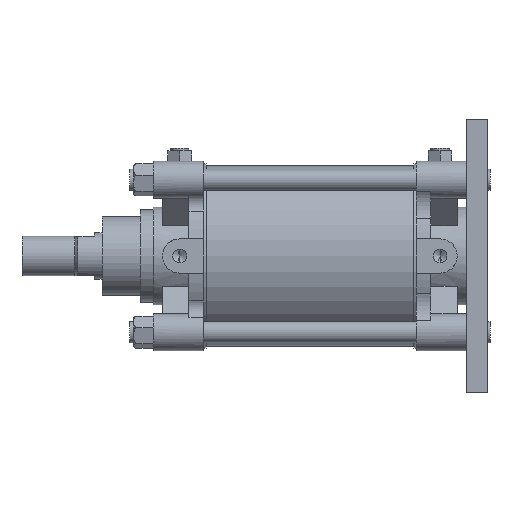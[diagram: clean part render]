
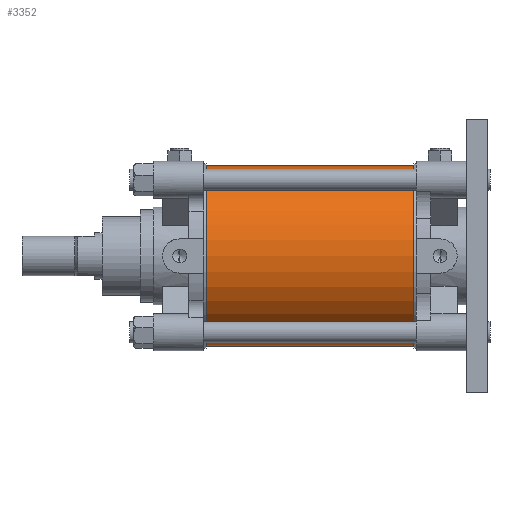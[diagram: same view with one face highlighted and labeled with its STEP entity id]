
A CAD part, front view. The second image highlights one B-rep face of the part: STEP entity #3352.
In plain terms, the highlighted cylindrical face has radius 68.5 mm (diameter 137 mm), a partial arc.
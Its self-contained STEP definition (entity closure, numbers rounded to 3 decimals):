
#100 = ORIENTED_EDGE ( 'NONE', *, *, #10176, .T. ) ;
#215 = DIRECTION ( 'NONE',  ( -1., 0., 0. ) ) ;
#283 = CARTESIAN_POINT ( 'NONE',  ( 79., 0., -68.5 ) ) ;
#845 = EDGE_CURVE ( 'NONE', #8014, #8733, #8389, .T. ) ;
#1365 = AXIS2_PLACEMENT_3D ( 'NONE', #1787, #7340, #9031 ) ;
#1706 = EDGE_LOOP ( 'NONE', ( #2172, #7622, #4409, #100 ) ) ;
#1787 = CARTESIAN_POINT ( 'NONE',  ( 79., 0., 0. ) ) ;
#1792 = VECTOR ( 'NONE', #2388, 1000. ) ;
#1885 = CARTESIAN_POINT ( 'NONE',  ( 79., 0., 0. ) ) ;
#2102 = LINE ( 'NONE', #283, #2419 ) ;
#2172 = ORIENTED_EDGE ( 'NONE', *, *, #5193, .F. ) ;
#2219 = FACE_OUTER_BOUND ( 'NONE', #1706, .T. ) ;
#2388 = DIRECTION ( 'NONE',  ( -1., 0., 0. ) ) ;
#2419 = VECTOR ( 'NONE', #4176, 1000. ) ;
#3352 = ADVANCED_FACE ( 'NONE', ( #2219 ), #9805, .T. ) ;
#3735 = CARTESIAN_POINT ( 'NONE',  ( -79., 0., -68.5 ) ) ;
#3767 = CARTESIAN_POINT ( 'NONE',  ( 79., 0., 68.5 ) ) ;
#4176 = DIRECTION ( 'NONE',  ( -1., 0., 0. ) ) ;
#4395 = AXIS2_PLACEMENT_3D ( 'NONE', #1885, #215, #7576 ) ;
#4409 = ORIENTED_EDGE ( 'NONE', *, *, #9285, .T. ) ;
#4432 = DIRECTION ( 'NONE',  ( 1., 0., 0. ) ) ;
#4455 = LINE ( 'NONE', #3767, #1792 ) ;
#4616 = VERTEX_POINT ( 'NONE', #3735 ) ;
#5193 = EDGE_CURVE ( 'NONE', #8733, #4616, #2102, .T. ) ;
#5279 = AXIS2_PLACEMENT_3D ( 'NONE', #8937, #4432, #10292 ) ;
#7285 = CARTESIAN_POINT ( 'NONE',  ( 79., 0., 68.5 ) ) ;
#7340 = DIRECTION ( 'NONE',  ( 1., 0., 0. ) ) ;
#7576 = DIRECTION ( 'NONE',  ( 0., 0., 1. ) ) ;
#7622 = ORIENTED_EDGE ( 'NONE', *, *, #845, .F. ) ;
#7862 = VERTEX_POINT ( 'NONE', #9318 ) ;
#7983 = CIRCLE ( 'NONE', #5279, 68.5 ) ;
#8014 = VERTEX_POINT ( 'NONE', #7285 ) ;
#8389 = CIRCLE ( 'NONE', #1365, 68.5 ) ;
#8733 = VERTEX_POINT ( 'NONE', #9238 ) ;
#8937 = CARTESIAN_POINT ( 'NONE',  ( -79., 0., 0. ) ) ;
#9031 = DIRECTION ( 'NONE',  ( 0., 0., -1. ) ) ;
#9238 = CARTESIAN_POINT ( 'NONE',  ( 79., 0., -68.5 ) ) ;
#9285 = EDGE_CURVE ( 'NONE', #8014, #7862, #4455, .T. ) ;
#9318 = CARTESIAN_POINT ( 'NONE',  ( -79., 0., 68.5 ) ) ;
#9805 = CYLINDRICAL_SURFACE ( 'NONE', #4395, 68.5 ) ;
#10176 = EDGE_CURVE ( 'NONE', #7862, #4616, #7983, .T. ) ;
#10292 = DIRECTION ( 'NONE',  ( 0., 0., -1. ) ) ;
